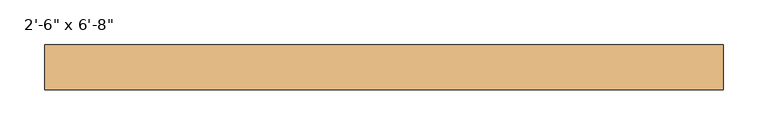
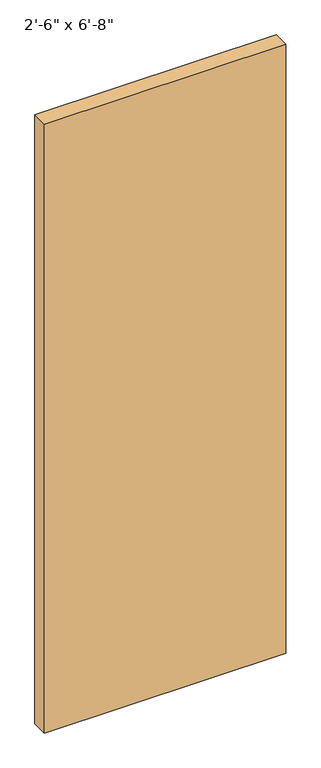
"""IFC4 building model written with IfcOpenShell, lengths in millimetres: door geometry."""

from ifc_helpers import new_model, si_unit, origin, origin_with_axes, place, context, project, spatial, polyline, outline, extrude, source, transform, mapped, element, save


def door_c08c9a8a(model_context):
    return source(origin(), model_context, "Body", "SweptSolid", [
        extrude(outline(polyline([(381.0, 25.2), (-381.0, 25.2), (-381.0, 76.2), (381.0, 76.2), (381.0, 25.2)])), origin_with_axes(), (0.0, 0.0, 1.0), 2032.0),
    ])


if __name__ == "__main__":
    model = new_model("IFC4")
    model_context = context("Model", 3, world=origin())
    ifc_project = project(units=[si_unit("LENGTHUNIT", "METRE", prefix="MILLI")], contexts=[model_context])
    site = spatial("IfcSite", under=ifc_project)
    building = spatial("IfcBuilding", under=site)
    placement = place(None, origin())
    door_shape = door_c08c9a8a(model_context)
    element("IfcDoor", 1, ObjectType="Planitar - Single Door_Flush Panel : 2'-6\" x 6'-8\"", at=placement, inside=building, context=model_context, shape_type="MappedRepresentation", body=[
        mapped(door_shape, transform((0.0, 0.0, 0.0), x_axis=(1.0, 0.0, 0.0), y_axis=(0.0, 1.0, 0.0), z_axis=(0.0, 0.0, 1.0))),
    ])
    save(model, "model.ifc")
